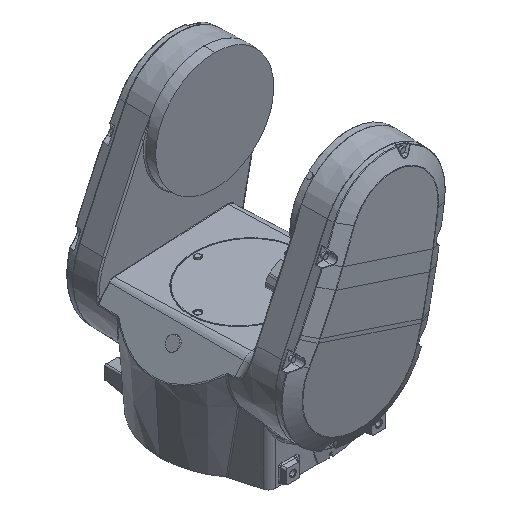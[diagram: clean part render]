
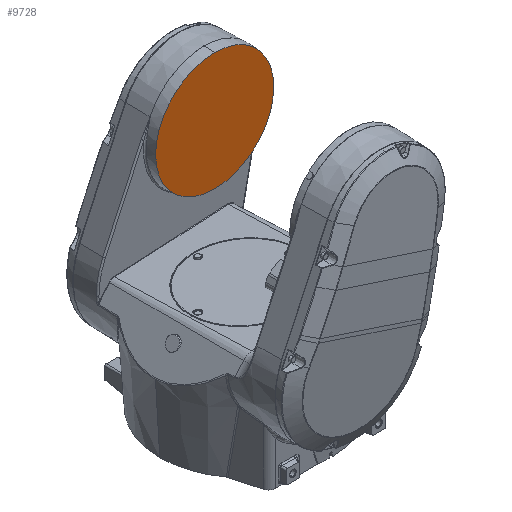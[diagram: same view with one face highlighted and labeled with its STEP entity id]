
A CAD part, isometric view. The second image highlights one B-rep face of the part: STEP entity #9728.
In plain terms, the highlighted planar face has unit normal (0, -1, 0).
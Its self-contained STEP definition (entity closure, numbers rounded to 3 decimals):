
#614 = ORIENTED_EDGE ( 'NONE', *, *, #48660, .F. ) ;
#2274 = ORIENTED_EDGE ( 'NONE', *, *, #21860, .F. ) ;
#3400 = DIRECTION ( 'NONE',  ( 0., 0., 1. ) ) ;
#4265 = AXIS2_PLACEMENT_3D ( 'NONE', #22856, #25175, #43615 ) ;
#5008 = VERTEX_POINT ( 'NONE', #13388 ) ;
#7919 = PLANE ( 'NONE',  #38916 ) ;
#9728 = ADVANCED_FACE ( 'NONE', ( #18783 ), #7919, .F. ) ;
#11769 = DIRECTION ( 'NONE',  ( 0., 1., 0. ) ) ;
#12303 = AXIS2_PLACEMENT_3D ( 'NONE', #26304, #11769, #3400 ) ;
#12931 = CIRCLE ( 'NONE', #4265, 85.959 ) ;
#13388 = CARTESIAN_POINT ( 'NONE',  ( 50., 94.5, 629.959 ) ) ;
#18783 = FACE_OUTER_BOUND ( 'NONE', #40194, .T. ) ;
#21860 = EDGE_CURVE ( 'NONE', #43401, #5008, #12931, .T. ) ;
#22707 = DIRECTION ( 'NONE',  ( 0., 1., 0. ) ) ;
#22856 = CARTESIAN_POINT ( 'NONE',  ( 50., 94.5, 544. ) ) ;
#25175 = DIRECTION ( 'NONE',  ( 0., 1., 0. ) ) ;
#26304 = CARTESIAN_POINT ( 'NONE',  ( 50., 94.5, 544. ) ) ;
#26687 = CARTESIAN_POINT ( 'NONE',  ( 50., 94.5, 458.041 ) ) ;
#33517 = CIRCLE ( 'NONE', #12303, 85.959 ) ;
#37694 = DIRECTION ( 'NONE',  ( 0., 0., 1. ) ) ;
#38916 = AXIS2_PLACEMENT_3D ( 'NONE', #41376, #22707, #37694 ) ;
#40194 = EDGE_LOOP ( 'NONE', ( #614, #2274 ) ) ;
#41376 = CARTESIAN_POINT ( 'NONE',  ( 50., 94.5, 634. ) ) ;
#43401 = VERTEX_POINT ( 'NONE', #26687 ) ;
#43615 = DIRECTION ( 'NONE',  ( 0., 0., 1. ) ) ;
#48660 = EDGE_CURVE ( 'NONE', #5008, #43401, #33517, .T. ) ;
